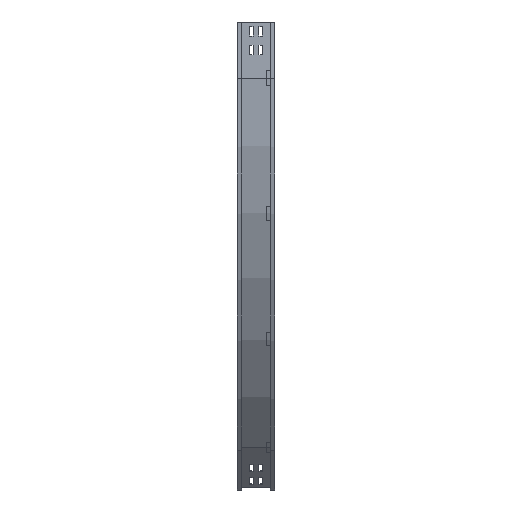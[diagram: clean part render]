
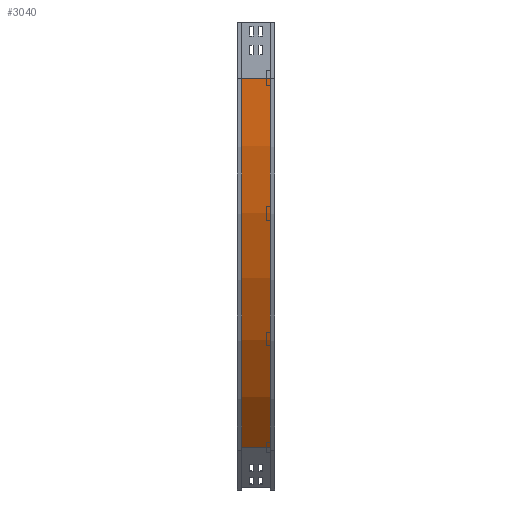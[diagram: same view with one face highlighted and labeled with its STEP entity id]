
A CAD part, left-side view. The second image highlights one B-rep face of the part: STEP entity #3040.
In plain terms, the highlighted cylindrical face has radius 1400 mm (diameter 2800 mm), a partial arc.
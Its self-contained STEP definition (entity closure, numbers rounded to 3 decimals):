
#128 = ORIENTED_EDGE ( 'NONE', *, *, #2042, .F. ) ;
#394 = VERTEX_POINT ( 'NONE', #2402 ) ;
#497 = EDGE_CURVE ( 'NONE', #3091, #2104, #840, .T. ) ;
#738 = DIRECTION ( 'NONE',  ( -1., 0., 0. ) ) ;
#840 = LINE ( 'NONE', #2815, #3862 ) ;
#869 = CARTESIAN_POINT ( 'NONE',  ( 419.051, 12., -1139.949 ) ) ;
#1056 = AXIS2_PLACEMENT_3D ( 'NONE', #3749, #1246, #4070 ) ;
#1246 = DIRECTION ( 'NONE',  ( 0., -1., 0. ) ) ;
#1297 = EDGE_CURVE ( 'NONE', #394, #3091, #2980, .T. ) ;
#1450 = CARTESIAN_POINT ( 'NONE',  ( 1409., 12., -150. ) ) ;
#1497 = DIRECTION ( 'NONE',  ( 0., -1., 0. ) ) ;
#1600 = ORIENTED_EDGE ( 'NONE', *, *, #1297, .T. ) ;
#1608 = CARTESIAN_POINT ( 'NONE',  ( 9., 12., -150. ) ) ;
#1777 = CARTESIAN_POINT ( 'NONE',  ( 1409., 88., -150. ) ) ;
#1816 = AXIS2_PLACEMENT_3D ( 'NONE', #1777, #3250, #2804 ) ;
#2042 = EDGE_CURVE ( 'NONE', #3298, #2104, #4239, .T. ) ;
#2104 = VERTEX_POINT ( 'NONE', #869 ) ;
#2266 = ORIENTED_EDGE ( 'NONE', *, *, #497, .T. ) ;
#2268 = CYLINDRICAL_SURFACE ( 'NONE', #1056, 1400. ) ;
#2348 = FACE_OUTER_BOUND ( 'NONE', #2754, .T. ) ;
#2402 = CARTESIAN_POINT ( 'NONE',  ( 9., 88., -150. ) ) ;
#2754 = EDGE_LOOP ( 'NONE', ( #128, #4087, #1600, #2266 ) ) ;
#2804 = DIRECTION ( 'NONE',  ( -1., 0., 0. ) ) ;
#2815 = CARTESIAN_POINT ( 'NONE',  ( 419.051, 12., -1139.949 ) ) ;
#2908 = DIRECTION ( 'NONE',  ( 0., -1., 0. ) ) ;
#2980 = CIRCLE ( 'NONE', #1816, 1400. ) ;
#3040 = ADVANCED_FACE ( 'NONE', ( #2348 ), #2268, .T. ) ;
#3091 = VERTEX_POINT ( 'NONE', #3128 ) ;
#3128 = CARTESIAN_POINT ( 'NONE',  ( 419.051, 88., -1139.949 ) ) ;
#3250 = DIRECTION ( 'NONE',  ( 0., -1., 0. ) ) ;
#3298 = VERTEX_POINT ( 'NONE', #4338 ) ;
#3749 = CARTESIAN_POINT ( 'NONE',  ( 1409., 0., -150. ) ) ;
#3862 = VECTOR ( 'NONE', #2908, 1000. ) ;
#3993 = DIRECTION ( 'NONE',  ( 0., -1., 0. ) ) ;
#4054 = LINE ( 'NONE', #1608, #4243 ) ;
#4070 = DIRECTION ( 'NONE',  ( 0., 0., -1. ) ) ;
#4087 = ORIENTED_EDGE ( 'NONE', *, *, #4135, .F. ) ;
#4135 = EDGE_CURVE ( 'NONE', #394, #3298, #4054, .T. ) ;
#4239 = CIRCLE ( 'NONE', #4445, 1400. ) ;
#4243 = VECTOR ( 'NONE', #3993, 1000. ) ;
#4338 = CARTESIAN_POINT ( 'NONE',  ( 9., 12., -150. ) ) ;
#4445 = AXIS2_PLACEMENT_3D ( 'NONE', #1450, #1497, #738 ) ;
